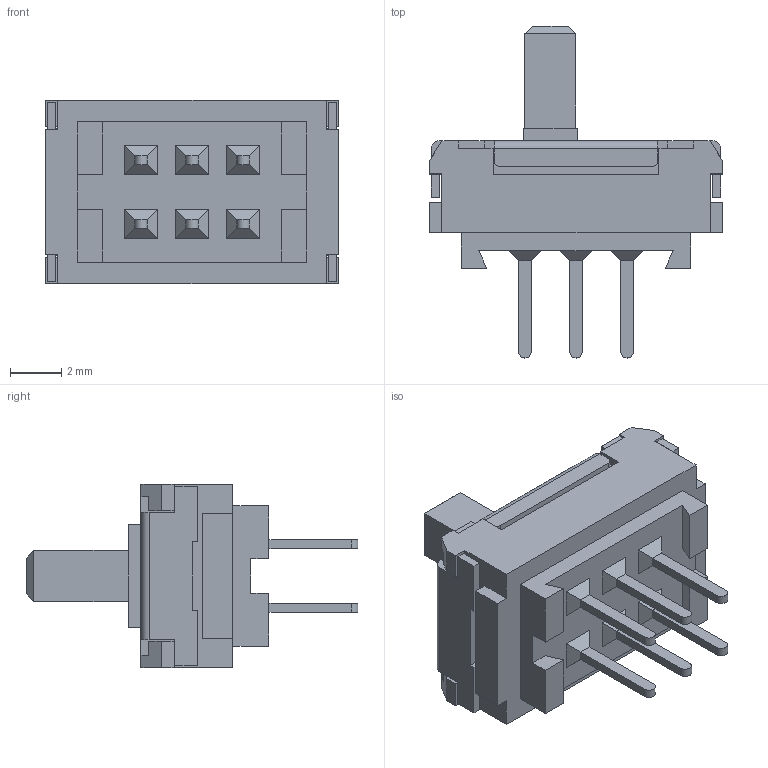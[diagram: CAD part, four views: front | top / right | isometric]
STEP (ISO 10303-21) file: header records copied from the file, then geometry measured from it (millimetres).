
FILE_DESCRIPTION (( 'STEP AP214' ), '1' );
FILE_NAME ('SSSS922500.STEP', '2011-04-04T11:27:47', ( '' ), ( '' ), 'SwSTEP 2.0', 'SolidWorks 2007', '' );
FILE_SCHEMA (( 'AUTOMOTIVE_DESIGN' ));
Length unit declared in the file: millimetre
Products named in the file (1): SSSS922500
Bounding box: 11.5 x 13 x 7.2 mm (x, y, z)
Volume: 347.4 mm3; surface area: 482.8 mm2
Topology: 1 solids, 1 shells, 207 faces, 542 edges, 346 vertices
Faces by surface type: plane 193, cylinder 14
Entity records: 7341 total; most frequent: CARTESIAN_POINT 1096, ORIENTED_EDGE 1084, DIRECTION 986, EDGE_CURVE 542, VECTOR 514, LINE 514, VERTEX_POINT 346, AXIS2_PLACEMENT_3D 236
